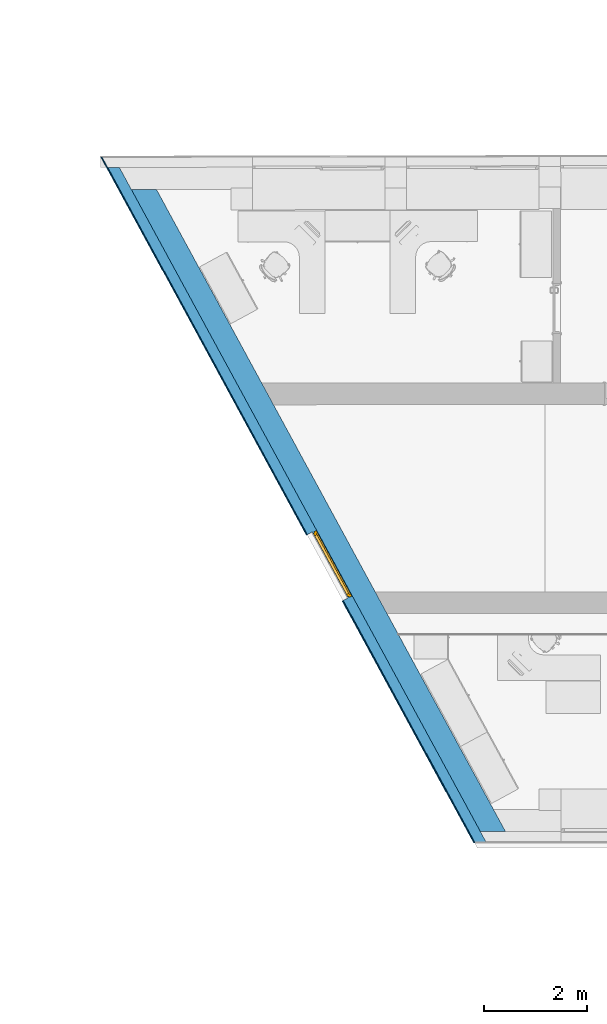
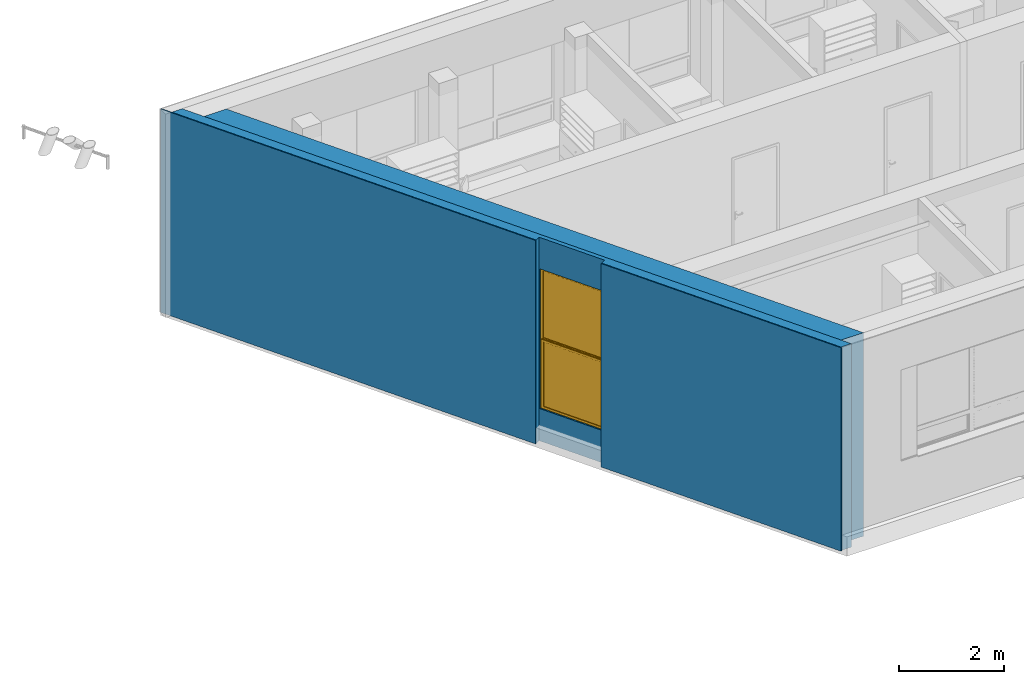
# One storey, part 87 of 194: 3 building element parts, 1 window, 1 opening, 1 element without a shape of its own.
"""IFC2X3 building model written with IfcOpenShell, lengths in millimetres."""

import ifcopenshell
import ifcopenshell.guid

model = None  # the IFC model being written
_history = None  # IfcOwnerHistory: only IFC2X3 demands one
_inside = {}  # id of a spatial element -> (the spatial element, [elements in it])
_under = {}  # id of a project, library or spatial element -> (it, [spatial elements below it])
_declared = {}  # id of a project -> (the project, [libraries it declares])
_typed = {}  # id of a type object -> (the type object, [elements of that type])
_made_of = {}  # id of a material, layer set ... -> (it, [elements and type objects made of it])


def new_model(schema):
    """Start an empty IFC model of exactly this schema.

    Asked for "IFC4X3", IfcOpenShell would pick the latest addendum, in which some entities
    have other attributes; the version numbers below select the first issue.
    IFC2X3 requires an IfcOwnerHistory on every rooted entity: one is made here for all.
    """
    global model, _history
    if schema == "IFC4X3":
        model = ifcopenshell.file(schema_version=(4, 3, 0, 0))
    else:
        model = ifcopenshell.file(schema=schema)
    _inside.clear()
    _under.clear()
    _declared.clear()
    _typed.clear()
    _made_of.clear()
    _history = None
    if model.schema == "IFC2X3":
        org = make("IfcOrganization", Name="unknown")
        user = make(
            "IfcPersonAndOrganization",
            ThePerson=make("IfcPerson", FamilyName="unknown"),
            TheOrganization=org,
        )
        app = make(
            "IfcApplication",
            ApplicationDeveloper=org,
            Version="unknown",
            ApplicationFullName="unknown",
            ApplicationIdentifier="unknown",
        )
        _history = make(
            "IfcOwnerHistory",
            OwningUser=user,
            OwningApplication=app,
            ChangeAction="ADDED",
            CreationDate=0,
        )
    return model


def make(cls, **values):
    """One entity of the class cls with the attributes given. An attribute that is None is left unset."""
    return model.create_entity(
        cls, **{name: value for name, value in values.items() if value is not None}
    )


def entity(cls, *values):
    """Any entity or typed value of the class cls, its attributes in the order of the schema. None: left unset."""
    e = model.create_entity(cls)
    for i, value in enumerate(values):
        if value is not None:
            e[i] = value
    return e


def rooted(cls, **values):
    """An entity with a GlobalId (a new one), such as an element, a storey or a relation."""
    return make(cls, GlobalId=ifcopenshell.guid.new(), OwnerHistory=_history, **values)


def si_unit(unit_type, name, prefix=None):
    """IfcSIUnit, for example si_unit("LENGTHUNIT", "METRE", prefix="MILLI")."""
    return make("IfcSIUnit", UnitType=unit_type, Prefix=prefix, Name=name)


def converted_unit(unit_type, name, factor, base, dimensions=None, offset=None):
    """IfcConversionBasedUnit, such as the inch: factor (a typed value) times the base unit."""
    return make(
        "IfcConversionBasedUnit"
        if offset is None
        else "IfcConversionBasedUnitWithOffset",
        ConversionOffset=offset,
        Dimensions=None
        if dimensions is None
        else entity("IfcDimensionalExponents", *dimensions),
        UnitType=unit_type,
        Name=name,
        ConversionFactor=make(
            "IfcMeasureWithUnit", ValueComponent=factor, UnitComponent=base
        ),
    )


def derived_unit(unit_type, elements):
    """IfcDerivedUnit: a product of units, each with its exponent."""
    return make(
        "IfcDerivedUnit",
        Elements=[
            make("IfcDerivedUnitElement", Unit=unit, Exponent=power)
            for unit, power in elements
        ],
        UnitType=unit_type,
    )


def money_unit(currency):
    """IfcMonetaryUnit."""
    return make("IfcMonetaryUnit", Currency=currency)


def assignment(units):
    """IfcUnitAssignment: the units of a project."""
    return None if units is None else make("IfcUnitAssignment", Units=units)


def point(xyz):
    """IfcCartesianPoint."""
    return None if xyz is None else make("IfcCartesianPoint", Coordinates=xyz)


def direction(xyz):
    """IfcDirection."""
    return None if xyz is None else make("IfcDirection", DirectionRatios=xyz)


def frame(location, z_axis=None, x_axis=None):
    """IfcAxis2Placement3D, a coordinate frame: its origin and axes. An axis left out is left unset."""
    return make(
        "IfcAxis2Placement3D",
        Location=point(location),
        Axis=direction(z_axis),
        RefDirection=direction(x_axis),
    )


def frame_2d(location, x_axis=None):
    """IfcAxis2Placement2D, a coordinate frame in the plane: its origin and x axis."""
    return make(
        "IfcAxis2Placement2D", Location=point(location), RefDirection=direction(x_axis)
    )


def origin_with_axes():
    """The frame at (0, 0, 0) with the z axis (0, 0, 1) and the x axis (1, 0, 0) written out."""
    return frame((0.0, 0.0, 0.0), z_axis=(0.0, 0.0, 1.0), x_axis=(1.0, 0.0, 0.0))


def origin_2d_with_axis():
    """The frame at (0, 0) in the plane with the x axis (1, 0) written out."""
    return frame_2d((0.0, 0.0), x_axis=(1.0, 0.0))


def place(relative_to, where):
    """IfcLocalPlacement: puts the frame where relative to a parent placement (None: the world)."""
    return make(
        "IfcLocalPlacement", PlacementRelTo=relative_to, RelativePlacement=where
    )


def context(
    kind, dimensions, precision=None, world=None, true_north=None, identifier=None
):
    """IfcGeometricRepresentationContext, for example the 3D "Model" context."""
    return make(
        "IfcGeometricRepresentationContext",
        ContextIdentifier=identifier,
        ContextType=kind,
        CoordinateSpaceDimension=dimensions,
        Precision=precision,
        WorldCoordinateSystem=world,
        TrueNorth=true_north,
    )


def subcontext(parent, identifier, kind, view, scale=None):
    """IfcGeometricRepresentationSubContext, for example "Body" below "Model"."""
    return make(
        "IfcGeometricRepresentationSubContext",
        ContextIdentifier=identifier,
        ContextType=kind,
        ParentContext=parent,
        TargetScale=scale,
        TargetView=view,
    )


def project(units=None, contexts=None):
    """IfcProject with its units and contexts."""
    return rooted(
        "IfcProject",
        Name="project",
        RepresentationContexts=contexts,
        UnitsInContext=assignment(units),
    )


def spatial(cls, under=None, at=None, **own):
    """A site, building, storey or space (cls), placed at a placement, below another one or the project."""
    s = rooted(cls, ObjectPlacement=at, **own)
    if under is not None:
        _under.setdefault(under.id(), (under, []))[1].append(s)
    return s


def polyline(points):
    """IfcPolyline through the points."""
    return make("IfcPolyline", Points=[point(p) for p in points])


def profile(cls, at=None, kind="AREA", **sizes):
    """A parametric profile (cls). Its sizes go by their IFC names, for example OverallWidth=200.0."""
    return make(cls, ProfileType=kind, Position=at, **sizes)


def rectangle(**sizes):
    """IfcRectangleProfileDef."""
    return profile("IfcRectangleProfileDef", **sizes)


def outline(outer, holes=None, kind="AREA"):
    """IfcArbitraryClosedProfileDef: a profile drawn as a closed curve; with holes, ...WithVoids."""
    if holes is None:
        return make("IfcArbitraryClosedProfileDef", ProfileType=kind, OuterCurve=outer)
    return make(
        "IfcArbitraryProfileDefWithVoids",
        ProfileType=kind,
        OuterCurve=outer,
        InnerCurves=holes,
    )


def extrude(swept, where, along, depth):
    """IfcExtrudedAreaSolid: the profile swept, set in the frame where, extruded along a direction by depth."""
    return make(
        "IfcExtrudedAreaSolid",
        SweptArea=swept,
        Position=where,
        ExtrudedDirection=direction(along),
        Depth=depth,
    )


def boolean(op, a, b):
    """IfcBooleanResult of two solids."""
    return make("IfcBooleanResult", Operator=op, FirstOperand=a, SecondOperand=b)


def faces_of(points, faces, orient=None, outer=None):
    """IfcFace entities. A face is a list of loops; a loop is a list of indices into points, from 0.

    orient and outer hold one flag for each loop. By default every Orientation is true, the
    first loop of a face is its IfcFaceOuterBound and the others are IfcFaceBound.
    """
    made = []
    for i, loops in enumerate(faces):
        bounds = []
        for j, loop in enumerate(loops):
            is_outer = j == 0 if outer is None else outer[i][j]
            bounds.append(
                make(
                    "IfcFaceOuterBound" if is_outer else "IfcFaceBound",
                    Bound=make("IfcPolyLoop", Polygon=[points[k] for k in loop]),
                    Orientation=True if orient is None else orient[i][j],
                )
            )
        made.append(make("IfcFace", Bounds=bounds))
    return made


def open_shell(faces, orient=None, outer=None):
    """The faces of one IfcOpenShell. surface_model builds it on its shared points."""
    return ("IfcOpenShell", faces, orient, outer)


def faceted_brep(points, faces, orient=None, outer=None, voids=None):
    """IfcFacetedBrep: a solid bounded by flat faces; with voids (closed shells), ...WithVoids."""
    shared = [point(p) for p in points]
    hull = make("IfcClosedShell", CfsFaces=faces_of(shared, faces, orient, outer))
    if voids is None:
        return make("IfcFacetedBrep", Outer=hull)
    return make(
        "IfcFacetedBrepWithVoids",
        Outer=hull,
        Voids=[
            make(cls, CfsFaces=faces_of(shared, fs, o, b)) for cls, fs, o, b in voids
        ],
    )


def surface_model(cls, points, shells):
    """IfcFaceBasedSurfaceModel or IfcShellBasedSurfaceModel (cls): surfaces that need not close."""
    shared = [point(p) for p in points]
    made = [make(c, CfsFaces=faces_of(shared, fs, o, b)) for c, fs, o, b in shells]
    if cls == "IfcFaceBasedSurfaceModel":
        return make(cls, FbsmFaces=made)
    return make(cls, SbsmBoundary=made)


def shape(context_of_items, identifier, shape_type, items):
    """IfcShapeRepresentation: the items that make up one representation, for example the "Body"."""
    return make(
        "IfcShapeRepresentation",
        ContextOfItems=context_of_items,
        RepresentationIdentifier=identifier,
        RepresentationType=shape_type,
        Items=items,
    )


def material(Name=None, Category=None):
    """IfcMaterial."""
    return make("IfcMaterial", Name=Name, Category=Category)


def made_of(thing, what):
    """Note that an element or type object is made of a material, layer set ...; save() writes the relation."""
    if what is not None:
        _made_of.setdefault(what.id(), (what, []))[1].append(thing)
    return thing


def type_object(cls, material=None, **own):
    """A type object (cls), such as IfcWallType, which elements share."""
    return made_of(rooted(cls, **own), material)


def element(
    cls,
    number,
    at=None,
    inside=None,
    cuts=None,
    type_object=None,
    material=None,
    context=None,
    identifier="Body",
    shape_type=None,
    held_by="IfcProductDefinitionShape",
    body=None,
    shapes=None,
    **own,
):
    """One element of the class cls, such as IfcWall. Its Tag is "e" and its number.

    at: its placement. inside: the storey or other place that contains it. cuts: it is an
    opening in that element (IfcRelVoidsElement). A single representation is given by context,
    identifier, shape_type and body (its items); several are given by shapes. held_by: the class
    of the entity that holds the representations. save() writes the other relations.
    """
    e = rooted(cls, Tag="e%d" % number, ObjectPlacement=at, **own)
    if body is not None:
        shapes = [shape(context, identifier, shape_type, body)]
    if shapes is not None:
        e.Representation = make(held_by, Representations=shapes)
    if inside is not None:
        _inside.setdefault(inside.id(), (inside, []))[1].append(e)
    if cuts is not None:
        rooted(
            "IfcRelVoidsElement", RelatingBuildingElement=cuts, RelatedOpeningElement=e
        )
    if type_object is not None:
        _typed.setdefault(type_object.id(), (type_object, []))[1].append(e)
    return made_of(e, material)


def fill(opening, filler):
    """IfcRelFillsElement: the door or window that sits in an opening."""
    return rooted(
        "IfcRelFillsElement",
        RelatingOpeningElement=opening,
        RelatedBuildingElement=filler,
    )


def aggregate(whole, parts):
    """IfcRelAggregates: a whole, such as a stair, and the parts it consists of."""
    return rooted("IfcRelAggregates", RelatingObject=whole, RelatedObjects=parts)


def save(model, path):
    """Write the relations noted so far, then the file.

    IfcRelAggregates (storeys below a building ...), IfcRelContainedInSpatialStructure (elements
    in a storey), IfcRelDefinesByType, IfcRelAssociatesMaterial and IfcRelDeclares: one each for
    every whole, place, type object, material and project.
    """
    for whole, parts in _under.values():
        aggregate(whole, parts)
    for where, things in _inside.values():
        rooted(
            "IfcRelContainedInSpatialStructure",
            RelatedElements=things,
            RelatingStructure=where,
        )
    for kind, things in _typed.values():
        rooted("IfcRelDefinesByType", RelatedObjects=things, RelatingType=kind)
    for what, things in _made_of.values():
        rooted("IfcRelAssociatesMaterial", RelatedObjects=things, RelatingMaterial=what)
    for by, libraries in _declared.values():
        rooted("IfcRelDeclares", RelatingContext=by, RelatedDefinitions=libraries)
    model.write(path)


model = new_model("IFC2X3")

# Units and contexts
model_context = context("Model", 3, precision=1e-05, world=origin_with_axes(), true_north=direction((0.0, 1.0)))
body_context = subcontext(model_context, "Body", "Model", "MODEL_VIEW")
ifc_project = project(units=[si_unit("LENGTHUNIT", "METRE", prefix="MILLI"), si_unit("AREAUNIT", "SQUARE_METRE"), si_unit("VOLUMEUNIT", "CUBIC_METRE"), converted_unit("PLANEANGLEUNIT", "DEGREE", entity("IfcPlaneAngleMeasure", 0.0174532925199), si_unit("PLANEANGLEUNIT", "RADIAN"), dimensions=[0, 0, 0, 0, 0, 0, 0]), si_unit("SOLIDANGLEUNIT", "STERADIAN"), money_unit("EUR"), converted_unit("TIMEUNIT", "Year", entity("IfcTimeMeasure", 31556926.0), si_unit("TIMEUNIT", "SECOND"), dimensions=[0, 0, 1, 0, 0, 0, 0]), si_unit("MASSUNIT", "GRAM", prefix="KILO"), si_unit("THERMODYNAMICTEMPERATUREUNIT", "DEGREE_CELSIUS"), si_unit("LUMINOUSINTENSITYUNIT", "LUMEN"), si_unit("ENERGYUNIT", "JOULE", prefix="MEGA"), derived_unit("THERMALCONDUCTANCEUNIT", [(si_unit("POWERUNIT", "WATT"), 1), (si_unit("LENGTHUNIT", "METRE"), -1), (si_unit("THERMODYNAMICTEMPERATUREUNIT", "KELVIN"), -1)]), derived_unit("SPECIFICHEATCAPACITYUNIT", [(si_unit("ENERGYUNIT", "JOULE"), 1), (si_unit("MASSUNIT", "GRAM", prefix="KILO"), -1), (si_unit("THERMODYNAMICTEMPERATUREUNIT", "KELVIN"), -1)]), derived_unit("MASSDENSITYUNIT", [(si_unit("MASSUNIT", "GRAM", prefix="KILO"), 1), (si_unit("VOLUMEUNIT", "CUBIC_METRE"), -1)])], contexts=[model_context])

# Site, building, storey
site_placement = place(None, origin_with_axes())
site = spatial("IfcSite", under=ifc_project, at=site_placement, Name="Site", CompositionType="ELEMENT")
building_placement = place(site_placement, origin_with_axes())
building = spatial("IfcBuilding", under=site, at=building_placement, Name="Building", CompositionType="ELEMENT")
storey_placement = place(building_placement, frame((0.0, 0.0, 3000.0), z_axis=(0.0, 0.0, 1.0), x_axis=(1.0, 0.0, 0.0)))
storey = spatial("IfcBuildingStorey", under=building, at=storey_placement, Name="2 KORRUS", CompositionType="ELEMENT", Elevation=3000.0)

# Window
window_style = type_object("IfcWindowStyle", Name="A3   1\xa0450×3\xa0250", ConstructionType="NOTDEFINED", OperationType="DOUBLE_PANEL_HORIZONTAL", ParameterTakesPrecedence=False, Sizeable=False)
wall_placement = place(storey_placement, frame((10563.4683047, 47277.3075683, -750.0), z_axis=(0.0, 0.0, 1.0), x_axis=(0.477572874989, -0.878592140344, 0.0)))
opening_placement = place(wall_placement, frame((8766.95591501, 0.0, 750.0), z_axis=(0.0, 0.0, 1.0), x_axis=(1.0, 0.0, 0.0)))
window_placement = place(opening_placement, frame((725.0, 4.54747350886e-10, 0.0), z_axis=(0.0, 0.0, 1.0), x_axis=(-1.0, 0.0, 0.0)))
window = element("IfcWindow", 1, at=window_placement, inside=storey, type_object=window_style, Name="välisaken * Window 22", OverallHeight=3250.0, OverallWidth=1450.0, context=body_context, shape_type="SurfaceModel", body=[
    faceted_brep([(1450.0, 59.9999999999, 50.0), (1425.0, 59.9999999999, 50.0), (1425.0, 59.9999999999, 1625.0), (1400.0, 59.9999999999, 1625.0), (1400.0, 59.9999999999, 1650.0), (1400.0, 59.9999999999, 3200.0), (1450.0, 59.9999999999, 3200.0), (1400.0, 34.9999999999, 50.0), (1425.0, 34.9999999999, 50.0), (1450.0, 10.0000000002, 50.0), (1400.0, 10.0000000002, 50.0), (1425.0, 34.9999999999, 1625.0), (1400.0, 34.9999999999, 1625.0), (1400.0, 34.9999999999, 1600.0), (1400.0, 10.0000000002, 1600.0), (1400.0, 10.0000000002, 1650.0), (1400.0, 10.0000000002, 3200.0), (1450.0, 10.0000000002, 3200.0)], [[[0, 1, 2, 3, 4, 5, 6]], [[7, 8, 1, 0, 9, 10]], [[11, 2, 1, 8]], [[11, 12, 3, 2]], [[3, 12, 13, 14, 15, 4]], [[5, 4, 15, 16]], [[6, 5, 16, 17]], [[0, 6, 17, 9]], [[7, 13, 12, 11, 8]], [[16, 15, 14, 10, 9, 17]], [[14, 13, 7, 10]]]),
    faceted_brep([(1400.0, 59.9999999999, 1650.0), (1400.0, 59.9999999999, 1625.0), (50.0000000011, 59.9999999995, 1625.0), (50.0000000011, 59.9999999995, 1650.0), (1400.0, 34.9999999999, 1600.0), (1400.0, 34.9999999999, 1625.0), (1400.0, 10.0000000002, 1650.0), (1400.0, 10.0000000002, 1600.0), (50.0000000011, 34.9999999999, 1625.0), (50.0000000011, 34.9999999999, 1600.0), (50.0000000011, 10.0000000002, 1600.0), (50.0000000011, 10.0000000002, 1650.0)], [[[0, 1, 2, 3]], [[4, 5, 1, 0, 6, 7]], [[5, 8, 2, 1]], [[2, 8, 9, 10, 11, 3]], [[0, 3, 11, 6]], [[4, 9, 8, 5]], [[10, 7, 6, 11]], [[10, 9, 4, 7]]]),
    faceted_brep([(50.0000000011, 10.0000000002, 50.0), (50.0000000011, 34.9999999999, 50.0), (25.0000000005, 35.0000000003, 50.0), (25.0000000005, 60.0000000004, 50.0), (9.09494701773e-10, 59.9999999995, 50.0), (9.09494701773e-10, 10.0000000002, 50.0), (1400.0, 10.0000000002, 50.0), (1400.0, 34.9999999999, 50.0), (25.0000000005, 35.0000000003, 25.0), (1425.0, 34.9999999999, 50.0), (1425.0, 34.9999999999, 25.0), (25.0000000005, 60.0000000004, 25.0), (1425.0, 59.9999999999, 25.0), (1425.0, 59.9999999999, 50.0), (1450.0, 59.9999999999, 50.0), (1450.0, 59.9999999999, 0.0), (9.09494701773e-10, 59.9999999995, 0.0), (9.09494701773e-10, 10.0000000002, 0.0), (1450.0, 10.0000000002, 0.0), (1450.0, 10.0000000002, 50.0)], [[[0, 1, 2, 3, 4, 5]], [[6, 7, 1, 0]], [[8, 2, 1, 7, 9, 10]], [[8, 11, 3, 2]], [[11, 12, 13, 14, 15, 16, 4, 3]], [[4, 16, 17, 5]], [[18, 19, 6, 0, 5, 17]], [[13, 9, 7, 6, 19, 14]], [[10, 9, 13, 12]], [[10, 12, 11, 8]], [[15, 14, 19, 18]], [[16, 15, 18, 17]]]),
    faceted_brep([(50.0000000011, 59.9999999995, 3200.0), (50.0000000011, 10.0000000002, 3200.0), (9.09494701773e-10, 10.0000000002, 3200.0), (9.09494701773e-10, 59.9999999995, 3200.0), (1400.0, 59.9999999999, 3200.0), (1400.0, 10.0000000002, 3200.0), (1450.0, 10.0000000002, 3200.0), (1450.0, 10.0000000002, 3250.0), (9.09494701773e-10, 10.0000000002, 3250.0), (9.09494701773e-10, 59.9999999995, 3250.0), (1450.0, 59.9999999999, 3250.0), (1450.0, 59.9999999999, 3200.0)], [[[0, 1, 2, 3]], [[4, 5, 1, 0]], [[2, 1, 5, 6, 7, 8]], [[3, 2, 8, 9]], [[4, 0, 3, 9, 10, 11]], [[11, 6, 5, 4]], [[10, 7, 6, 11]], [[9, 8, 7, 10]]]),
    surface_model("IfcShellBasedSurfaceModel", [(1400.0, 24.9999999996, 1650.0), (1400.0, 24.9999999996, 3200.0), (50.0000000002, 25.0000000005, 3200.0), (50.0000000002, 25.0000000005, 1650.0)], [open_shell([[[0, 1, 2, 3]]])]),
    surface_model("IfcShellBasedSurfaceModel", [(1400.0, 44.9999999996, 1650.0), (50.0000000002, 45.0000000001, 1650.0), (50.0000000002, 45.0000000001, 3200.0), (1400.0, 44.9999999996, 3200.0)], [open_shell([[[0, 1, 2, 3]]])]),
    faceted_brep([(75.0000000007, 85.0, 75.0), (75.0000000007, 35.0000000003, 75.0), (25.0000000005, 35.0000000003, 75.0), (25.0000000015, 85.0, 75.0), (75.0000000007, 85.0, 1575.0), (75.0000000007, 35.0000000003, 1575.0), (25.0000000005, 35.0000000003, 1575.0), (25.0000000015, 85.0, 1575.0)], [[[0, 1, 2, 3]], [[4, 5, 1, 0]], [[2, 1, 5, 6]], [[3, 2, 6, 7]], [[4, 0, 3, 7]], [[7, 6, 5, 4]]]),
    faceted_brep([(1425.0, 85.0, 1625.0), (1425.0, 34.9999999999, 1625.0), (1425.0, 34.9999999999, 1575.0), (1425.0, 85.0, 1575.0), (25.0000000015, 85.0, 1625.0), (25.0000000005, 35.0000000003, 1625.0), (25.0000000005, 35.0000000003, 1575.0), (75.0000000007, 35.0000000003, 1575.0), (1375.0, 34.9999999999, 1575.0), (1375.0, 84.9999999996, 1575.0), (75.0000000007, 85.0, 1575.0), (25.0000000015, 85.0, 1575.0)], [[[0, 1, 2, 3]], [[4, 5, 1, 0]], [[2, 1, 5, 6, 7, 8]], [[3, 2, 8, 9]], [[4, 0, 3, 9, 10, 11]], [[11, 6, 5, 4]], [[10, 7, 6, 11]], [[9, 8, 7, 10]]]),
    surface_model("IfcShellBasedSurfaceModel", [(1375.0, 50.0000000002, 75.0), (1375.0, 50.0000000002, 1575.0), (75.0000000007, 49.9999999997, 1575.0), (75.0000000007, 49.9999999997, 75.0)], [open_shell([[[0, 1, 2, 3]]])]),
    surface_model("IfcShellBasedSurfaceModel", [(1375.0, 69.9999999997, 75.0), (75.0000000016, 70.0000000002, 75.0), (75.0000000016, 70.0000000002, 1575.0), (1375.0, 69.9999999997, 1575.0)], [open_shell([[[0, 1, 2, 3]]])]),
    faceted_brep([(1375.0, 84.9999999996, 1575.0), (1375.0, 34.9999999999, 1575.0), (1425.0, 34.9999999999, 1575.0), (1425.0, 85.0, 1575.0), (1375.0, 84.9999999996, 75.0), (1375.0, 34.9999999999, 75.0), (1425.0, 34.9999999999, 75.0), (1425.0, 85.0, 75.0)], [[[0, 1, 2, 3]], [[4, 5, 1, 0]], [[2, 1, 5, 6]], [[3, 2, 6, 7]], [[4, 0, 3, 7]], [[7, 6, 5, 4]]]),
    faceted_brep([(25.0000000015, 85.0, 25.0), (25.0000000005, 35.0000000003, 25.0), (25.0000000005, 35.0000000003, 75.0), (25.0000000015, 85.0, 75.0), (1425.0, 85.0, 25.0), (1425.0, 34.9999999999, 25.0), (1425.0, 34.9999999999, 75.0), (1375.0, 34.9999999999, 75.0), (75.0000000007, 35.0000000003, 75.0), (75.0000000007, 85.0, 75.0), (1375.0, 84.9999999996, 75.0), (1425.0, 85.0, 75.0)], [[[0, 1, 2, 3]], [[4, 5, 1, 0]], [[2, 1, 5, 6, 7, 8]], [[3, 2, 8, 9]], [[4, 0, 3, 9, 10, 11]], [[11, 6, 5, 4]], [[10, 7, 6, 11]], [[9, 8, 7, 10]]]),
    faceted_brep([(25.0000000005, 60.0000000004, 1625.0), (25.0000000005, 60.0000000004, 50.0), (9.09494701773e-10, 59.9999999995, 50.0), (9.09494701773e-10, 59.9999999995, 3200.0), (50.0000000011, 59.9999999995, 3200.0), (50.0000000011, 59.9999999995, 1650.0), (50.0000000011, 59.9999999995, 1625.0), (25.0000000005, 35.0000000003, 1625.0), (25.0000000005, 35.0000000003, 50.0), (50.0000000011, 34.9999999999, 50.0), (50.0000000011, 10.0000000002, 50.0), (9.09494701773e-10, 10.0000000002, 50.0), (9.09494701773e-10, 10.0000000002, 3200.0), (50.0000000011, 10.0000000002, 3200.0), (50.0000000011, 10.0000000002, 1650.0), (50.0000000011, 34.9999999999, 1625.0), (50.0000000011, 10.0000000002, 1600.0), (50.0000000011, 34.9999999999, 1600.0)], [[[0, 1, 2, 3, 4, 5, 6]], [[1, 0, 7, 8]], [[8, 9, 10, 11, 2, 1]], [[2, 11, 12, 3]], [[3, 12, 13, 4]], [[4, 13, 14, 5]], [[15, 6, 5, 14, 16, 17]], [[0, 6, 15, 7]], [[9, 8, 7, 15, 17]], [[9, 17, 16, 10]], [[11, 10, 16, 14, 13, 12]]]),
])

# Wall, opening
wall_type = type_object("IfcWallType", Name="VS4", PredefinedType="NOTDEFINED")
wall = element("IfcWall", 2, at=wall_placement, inside=storey, type_object=wall_type, Name="VS4")
opening = element("IfcOpeningElement", 3, at=opening_placement, cuts=wall, Name="välisaken * Window 22", context=body_context, shape_type="SweptSolid", body=[
    extrude(rectangle(XDim=1450.0, YDim=3250.0, at=origin_2d_with_axis()), frame((-9.09494701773e-10, -59.999999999, 1625.0), z_axis=(0.0, 1.0, 0.0), x_axis=(1.0, 0.0, 0.0)), (0.0, 0.0, 1.0), 1140.0),
    extrude(rectangle(XDim=1450.0, YDim=3250.0, at=origin_2d_with_axis()), frame((0.0, -59.9999999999, 1625.0), z_axis=(0.0, -1.0, 0.0), x_axis=(1.0, 0.0, 0.0)), (0.0, 0.0, 1.0), 810.000000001),
])

fill(opening, window)

# Building element part
ifc_material_1 = material(Name="Tellis - Konstuktsioon")
building_element_part_1_placement = place(wall_placement, origin_with_axes())
building_element_part_1 = element("IfcBuildingElementPart", 4, at=building_element_part_1_placement, material=ifc_material_1, Name="Tellis - Konstuktsioon", context=body_context, shape_type="CSG", body=[
    boolean("DIFFERENCE", boolean("DIFFERENCE", boolean("DIFFERENCE", boolean("DIFFERENCE", boolean("DIFFERENCE", boolean("DIFFERENCE", boolean("DIFFERENCE", boolean("DIFFERENCE", extrude(outline(polyline([(-369.310330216, 4.54747350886e-10), (15198.2055546, 0.0), (15198.2055546, 430.0), (-369.310330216, 430.0), (-369.310330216, 4.54747350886e-10)])), origin_with_axes(), (0.0, 0.0, 1.0), 4730.0), faceted_brep([(488.993482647, -4.54747350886e-10, 4730.0), (721.83382724, 430.0, 4730.0), (-369.310330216, 430.0, 4730.0), (-369.310330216, 4.54747350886e-10, 4730.0), (721.83382724, 430.0, 0.0), (488.993482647, -4.54747350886e-10, 0.0), (-369.310330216, 430.0, 0.0), (-369.310330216, 4.54747350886e-10, 0.0)], [[[0, 1, 2, 3]], [[4, 1, 0, 5]], [[1, 4, 6, 2]], [[2, 6, 7, 3]], [[5, 0, 3, 7]], [[4, 5, 7, 6]]])), faceted_brep([(14947.8165546, 430.0, 0.0), (14947.8165546, 430.0, 4730.0), (15198.2055546, 430.0, 4730.0), (15198.2055546, 430.0, 0.0), (14714.1306283, -4.54747350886e-10, 4730.0), (14714.1306283, -4.54747350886e-10, 0.0), (15198.2055546, 4.54747350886e-10, 4730.0), (15198.2055546, 4.54747350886e-10, 0.0)], [[[0, 1, 2, 3]], [[4, 1, 0, 5]], [[1, 4, 6, 2]], [[6, 7, 3, 2]], [[5, 0, 3, 7]], [[4, 5, 7, 6]]])), faceted_brep([(-108.297834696, -200.0, 4730.0), (0.0, 0.0, 4730.0), (-369.310330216, 4.54747350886e-10, 4730.0), (-369.310330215, -200.0, 4730.0), (0.0, 0.0, 0.0), (-108.297834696, -200.0, 0.0), (-369.310330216, 4.54747350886e-10, 0.0), (-369.310330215, -200.0, 0.0)], [[[0, 1, 2, 3]], [[4, 1, 0, 5]], [[1, 4, 6, 2]], [[2, 6, 7, 3]], [[5, 0, 3, 7]], [[4, 5, 7, 6]]])), faceted_brep([(8028.13615611, -89.8144061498, 4730.0), (8028.13615611, -200.0, 4730.0), (9487.53999842, -200.0, 4730.0), (9487.53999842, -89.8144061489, 4730.0), (8028.13615611, -89.8144061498, 0.0), (8028.13615611, -200.0, 0.0), (9487.53999842, -200.0, 0.0), (9487.53999842, -89.8144061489, 0.0)], [[[0, 1, 2, 3]], [[1, 0, 4, 5]], [[6, 2, 1, 5]], [[3, 2, 6, 7]], [[0, 3, 7, 4]], [[7, 6, 5, 4]]])), faceted_brep([(14941.7569919, -4.54747350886e-10, 0.0), (14941.7569919, -4.54747350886e-10, 4730.0), (15198.2055546, 4.54747350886e-10, 4730.0), (15198.2055546, 4.54747350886e-10, 0.0), (14833.0658634, -200.0, 4730.0), (14833.0658634, -200.0, 0.0), (15198.2055546, -200.0, 4730.0), (15198.2055546, -200.0, 0.0)], [[[0, 1, 2, 3]], [[4, 1, 0, 5]], [[1, 4, 6, 2]], [[6, 7, 3, 2]], [[5, 0, 3, 7]], [[4, 5, 7, 6]]])), faceted_brep([(-346.566447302, -220.0, 4730.0), (-335.736663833, -200.0, 4730.0), (-369.310330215, -200.0, 4730.0), (-369.310330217, -220.0, 4730.0), (-335.736663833, -200.0, 0.0), (-346.566447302, -220.0, 0.0), (-369.310330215, -200.0, 0.0), (-369.310330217, -220.0, 0.0)], [[[0, 1, 2, 3]], [[4, 1, 0, 5]], [[1, 4, 6, 2]], [[2, 6, 7, 3]], [[5, 0, 3, 7]], [[4, 5, 7, 6]]])), faceted_brep([(9487.53999842, -200.0, 4730.0), (9487.53999842, -200.0, 0.0), (8028.13615611, -200.0, 0.0), (8028.13615611, -200.0, 4730.0), (9487.53999842, -220.0, 4730.0), (9487.53999842, -220.0, 0.0), (8028.13615611, -220.0, 0.0), (8028.13615611, -220.0, 4730.0)], [[[0, 1, 2, 3]], [[1, 0, 4, 5]], [[1, 5, 6, 2]], [[7, 3, 2, 6]], [[4, 0, 3, 7]], [[5, 4, 7, 6]]])), faceted_brep([(14855.8284997, -200.0, 0.0), (14855.8284997, -200.0, 4730.0), (15198.2055546, -200.0, 4730.0), (15198.2055546, -200.0, 0.0), (14844.9593869, -220.0, 4730.0), (14844.9593869, -220.0, 0.0), (15198.2055546, -220.0, 4730.0), (15198.2055546, -220.0, 0.0)], [[[0, 1, 2, 3]], [[4, 1, 0, 5]], [[1, 4, 6, 2]], [[6, 7, 3, 2]], [[5, 0, 3, 7]], [[4, 5, 7, 6]]])),
])

ifc_material_2 = material(Name="Soojustus - Plastik Kõva")
building_element_part_2_placement = place(wall_placement, origin_with_axes())
building_element_part_2 = element("IfcBuildingElementPart", 5, at=building_element_part_2_placement, material=ifc_material_2, Name="Soojustus - Plastik Kõva", context=body_context, shape_type="CSG", body=[
    boolean("DIFFERENCE", boolean("DIFFERENCE", boolean("DIFFERENCE", boolean("DIFFERENCE", boolean("DIFFERENCE", boolean("DIFFERENCE", boolean("DIFFERENCE", boolean("DIFFERENCE", extrude(outline(polyline([(-369.310330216, -200.0), (15198.2055546, -200.0), (15198.2055546, 0.0), (-369.310330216, 4.54747350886e-10), (-369.310330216, -200.0)])), origin_with_axes(), (0.0, 0.0, 1.0), 4730.0), faceted_brep([(488.993482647, -4.54747350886e-10, 4730.0), (721.83382724, 430.0, 4730.0), (-369.310330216, 430.0, 4730.0), (-369.310330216, 4.54747350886e-10, 4730.0), (721.83382724, 430.0, 0.0), (488.993482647, -4.54747350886e-10, 0.0), (-369.310330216, 430.0, 0.0), (-369.310330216, 4.54747350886e-10, 0.0)], [[[0, 1, 2, 3]], [[4, 1, 0, 5]], [[1, 4, 6, 2]], [[2, 6, 7, 3]], [[5, 0, 3, 7]], [[4, 5, 7, 6]]])), faceted_brep([(14947.8165546, 430.0, 0.0), (14947.8165546, 430.0, 4730.0), (15198.2055546, 430.0, 4730.0), (15198.2055546, 430.0, 0.0), (14714.1306283, -4.54747350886e-10, 4730.0), (14714.1306283, -4.54747350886e-10, 0.0), (15198.2055546, 4.54747350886e-10, 4730.0), (15198.2055546, 4.54747350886e-10, 0.0)], [[[0, 1, 2, 3]], [[4, 1, 0, 5]], [[1, 4, 6, 2]], [[6, 7, 3, 2]], [[5, 0, 3, 7]], [[4, 5, 7, 6]]])), faceted_brep([(-108.297834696, -200.0, 4730.0), (0.0, 0.0, 4730.0), (-369.310330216, 4.54747350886e-10, 4730.0), (-369.310330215, -200.0, 4730.0), (0.0, 0.0, 0.0), (-108.297834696, -200.0, 0.0), (-369.310330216, 4.54747350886e-10, 0.0), (-369.310330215, -200.0, 0.0)], [[[0, 1, 2, 3]], [[4, 1, 0, 5]], [[1, 4, 6, 2]], [[2, 6, 7, 3]], [[5, 0, 3, 7]], [[4, 5, 7, 6]]])), faceted_brep([(8028.13615611, -89.8144061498, 4730.0), (8028.13615611, -200.0, 4730.0), (9487.53999842, -200.0, 4730.0), (9487.53999842, -89.8144061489, 4730.0), (8028.13615611, -89.8144061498, 0.0), (8028.13615611, -200.0, 0.0), (9487.53999842, -200.0, 0.0), (9487.53999842, -89.8144061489, 0.0)], [[[0, 1, 2, 3]], [[1, 0, 4, 5]], [[6, 2, 1, 5]], [[3, 2, 6, 7]], [[0, 3, 7, 4]], [[7, 6, 5, 4]]])), faceted_brep([(14941.7569919, -4.54747350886e-10, 0.0), (14941.7569919, -4.54747350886e-10, 4730.0), (15198.2055546, 4.54747350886e-10, 4730.0), (15198.2055546, 4.54747350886e-10, 0.0), (14833.0658634, -200.0, 4730.0), (14833.0658634, -200.0, 0.0), (15198.2055546, -200.0, 4730.0), (15198.2055546, -200.0, 0.0)], [[[0, 1, 2, 3]], [[4, 1, 0, 5]], [[1, 4, 6, 2]], [[6, 7, 3, 2]], [[5, 0, 3, 7]], [[4, 5, 7, 6]]])), faceted_brep([(-346.566447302, -220.0, 4730.0), (-335.736663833, -200.0, 4730.0), (-369.310330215, -200.0, 4730.0), (-369.310330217, -220.0, 4730.0), (-335.736663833, -200.0, 0.0), (-346.566447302, -220.0, 0.0), (-369.310330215, -200.0, 0.0), (-369.310330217, -220.0, 0.0)], [[[0, 1, 2, 3]], [[4, 1, 0, 5]], [[1, 4, 6, 2]], [[2, 6, 7, 3]], [[5, 0, 3, 7]], [[4, 5, 7, 6]]])), faceted_brep([(9487.53999842, -200.0, 4730.0), (9487.53999842, -200.0, 0.0), (8028.13615611, -200.0, 0.0), (8028.13615611, -200.0, 4730.0), (9487.53999842, -220.0, 4730.0), (9487.53999842, -220.0, 0.0), (8028.13615611, -220.0, 0.0), (8028.13615611, -220.0, 4730.0)], [[[0, 1, 2, 3]], [[1, 0, 4, 5]], [[1, 5, 6, 2]], [[7, 3, 2, 6]], [[4, 0, 3, 7]], [[5, 4, 7, 6]]])), faceted_brep([(14855.8284997, -200.0, 0.0), (14855.8284997, -200.0, 4730.0), (15198.2055546, -200.0, 4730.0), (15198.2055546, -200.0, 0.0), (14844.9593869, -220.0, 4730.0), (14844.9593869, -220.0, 0.0), (15198.2055546, -220.0, 4730.0), (15198.2055546, -220.0, 0.0)], [[[0, 1, 2, 3]], [[4, 1, 0, 5]], [[1, 4, 6, 2]], [[6, 7, 3, 2]], [[5, 0, 3, 7]], [[4, 5, 7, 6]]])),
])

ifc_material_3 = material(Name="Tellis - Viimistlus")
building_element_part_3_placement = place(wall_placement, origin_with_axes())
building_element_part_3 = element("IfcBuildingElementPart", 6, at=building_element_part_3_placement, material=ifc_material_3, Name="Tellis - Viimistlus", context=body_context, shape_type="CSG", body=[
    boolean("DIFFERENCE", boolean("DIFFERENCE", boolean("DIFFERENCE", boolean("DIFFERENCE", boolean("DIFFERENCE", boolean("DIFFERENCE", boolean("DIFFERENCE", boolean("DIFFERENCE", extrude(outline(polyline([(-369.310330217, -220.0), (15198.2055546, -220.0), (15198.2055546, -200.0), (-369.310330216, -200.0), (-369.310330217, -220.0)])), origin_with_axes(), (0.0, 0.0, 1.0), 4730.0), faceted_brep([(488.993482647, -4.54747350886e-10, 4730.0), (721.83382724, 430.0, 4730.0), (-369.310330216, 430.0, 4730.0), (-369.310330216, 4.54747350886e-10, 4730.0), (721.83382724, 430.0, 0.0), (488.993482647, -4.54747350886e-10, 0.0), (-369.310330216, 430.0, 0.0), (-369.310330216, 4.54747350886e-10, 0.0)], [[[0, 1, 2, 3]], [[4, 1, 0, 5]], [[1, 4, 6, 2]], [[2, 6, 7, 3]], [[5, 0, 3, 7]], [[4, 5, 7, 6]]])), faceted_brep([(14947.8165546, 430.0, 0.0), (14947.8165546, 430.0, 4730.0), (15198.2055546, 430.0, 4730.0), (15198.2055546, 430.0, 0.0), (14714.1306283, -4.54747350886e-10, 4730.0), (14714.1306283, -4.54747350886e-10, 0.0), (15198.2055546, 4.54747350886e-10, 4730.0), (15198.2055546, 4.54747350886e-10, 0.0)], [[[0, 1, 2, 3]], [[4, 1, 0, 5]], [[1, 4, 6, 2]], [[6, 7, 3, 2]], [[5, 0, 3, 7]], [[4, 5, 7, 6]]])), faceted_brep([(-108.297834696, -200.0, 4730.0), (0.0, 0.0, 4730.0), (-369.310330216, 4.54747350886e-10, 4730.0), (-369.310330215, -200.0, 4730.0), (0.0, 0.0, 0.0), (-108.297834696, -200.0, 0.0), (-369.310330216, 4.54747350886e-10, 0.0), (-369.310330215, -200.0, 0.0)], [[[0, 1, 2, 3]], [[4, 1, 0, 5]], [[1, 4, 6, 2]], [[2, 6, 7, 3]], [[5, 0, 3, 7]], [[4, 5, 7, 6]]])), faceted_brep([(8028.13615611, -89.8144061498, 4730.0), (8028.13615611, -200.0, 4730.0), (9487.53999842, -200.0, 4730.0), (9487.53999842, -89.8144061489, 4730.0), (8028.13615611, -89.8144061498, 0.0), (8028.13615611, -200.0, 0.0), (9487.53999842, -200.0, 0.0), (9487.53999842, -89.8144061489, 0.0)], [[[0, 1, 2, 3]], [[1, 0, 4, 5]], [[6, 2, 1, 5]], [[3, 2, 6, 7]], [[0, 3, 7, 4]], [[7, 6, 5, 4]]])), faceted_brep([(14941.7569919, -4.54747350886e-10, 0.0), (14941.7569919, -4.54747350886e-10, 4730.0), (15198.2055546, 4.54747350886e-10, 4730.0), (15198.2055546, 4.54747350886e-10, 0.0), (14833.0658634, -200.0, 4730.0), (14833.0658634, -200.0, 0.0), (15198.2055546, -200.0, 4730.0), (15198.2055546, -200.0, 0.0)], [[[0, 1, 2, 3]], [[4, 1, 0, 5]], [[1, 4, 6, 2]], [[6, 7, 3, 2]], [[5, 0, 3, 7]], [[4, 5, 7, 6]]])), faceted_brep([(-346.566447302, -220.0, 4730.0), (-335.736663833, -200.0, 4730.0), (-369.310330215, -200.0, 4730.0), (-369.310330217, -220.0, 4730.0), (-335.736663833, -200.0, 0.0), (-346.566447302, -220.0, 0.0), (-369.310330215, -200.0, 0.0), (-369.310330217, -220.0, 0.0)], [[[0, 1, 2, 3]], [[4, 1, 0, 5]], [[1, 4, 6, 2]], [[2, 6, 7, 3]], [[5, 0, 3, 7]], [[4, 5, 7, 6]]])), faceted_brep([(9487.53999842, -200.0, 4730.0), (9487.53999842, -200.0, 0.0), (8028.13615611, -200.0, 0.0), (8028.13615611, -200.0, 4730.0), (9487.53999842, -220.0, 4730.0), (9487.53999842, -220.0, 0.0), (8028.13615611, -220.0, 0.0), (8028.13615611, -220.0, 4730.0)], [[[0, 1, 2, 3]], [[1, 0, 4, 5]], [[1, 5, 6, 2]], [[7, 3, 2, 6]], [[4, 0, 3, 7]], [[5, 4, 7, 6]]])), faceted_brep([(14855.8284997, -200.0, 0.0), (14855.8284997, -200.0, 4730.0), (15198.2055546, -200.0, 4730.0), (15198.2055546, -200.0, 0.0), (14844.9593869, -220.0, 4730.0), (14844.9593869, -220.0, 0.0), (15198.2055546, -220.0, 4730.0), (15198.2055546, -220.0, 0.0)], [[[0, 1, 2, 3]], [[4, 1, 0, 5]], [[1, 4, 6, 2]], [[6, 7, 3, 2]], [[5, 0, 3, 7]], [[4, 5, 7, 6]]])),
])

aggregate(wall, [building_element_part_1, building_element_part_2, building_element_part_3])

save(model, "model.ifc")
